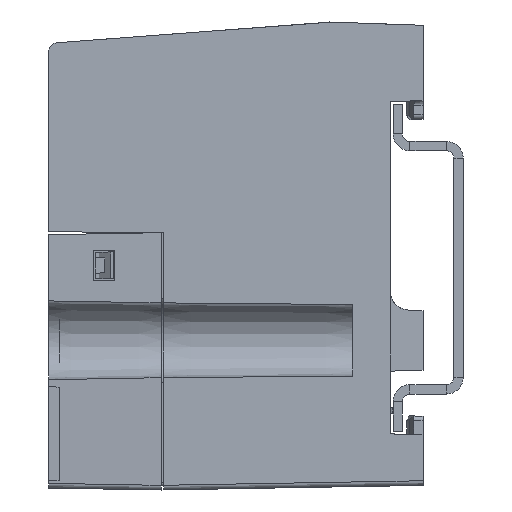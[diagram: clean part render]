
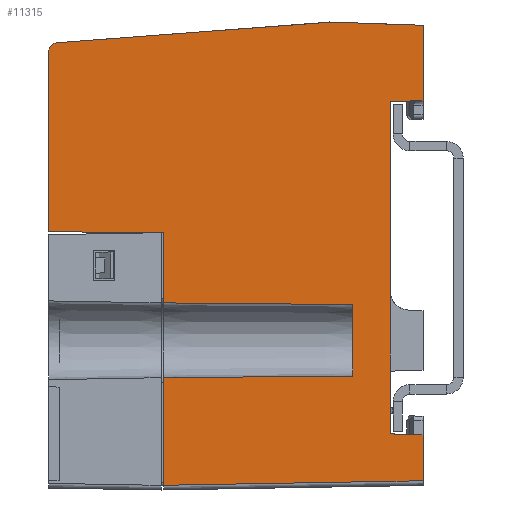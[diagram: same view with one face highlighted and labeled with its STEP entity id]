
A CAD part, left-side view. The second image highlights one B-rep face of the part: STEP entity #11315.
In plain terms, the highlighted planar face has unit normal (-1, -0.018, 0).
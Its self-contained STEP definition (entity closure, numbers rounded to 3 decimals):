
#163=DIRECTION('',(0.,0.,1.));
#164=VECTOR('',#163,4.889);
#165=CARTESIAN_POINT('',(-89.511,0.,
-24.011));
#166=LINE('',#165,#164);
#557=DIRECTION('',(-0.017,0.999,-0.035));
#558=VECTOR('',#557,3.503);
#559=CARTESIAN_POINT('',(-89.511,0.,
16.622));
#560=LINE('',#559,#558);
#564=DIRECTION('',(0.,0.,-1.));
#565=VECTOR('',#564,20.269);
#566=CARTESIAN_POINT('',(-89.572,3.5,16.5));
#567=LINE('',#566,#565);
#571=DIRECTION('',(0.,0.,-1.));
#572=VECTOR('',#571,6.7);
#573=CARTESIAN_POINT('',(-89.572,3.5,-12.3));
#574=LINE('',#573,#572);
#578=DIRECTION('',(-0.017,1.,-0.017));
#579=VECTOR('',#578,27.708);
#580=CARTESIAN_POINT('',(-89.511,0.,
-24.011));
#581=LINE('',#580,#579);
#585=DIRECTION('',(0.,0.,1.));
#586=VECTOR('',#585,11.497);
#587=CARTESIAN_POINT('',(-89.995,27.7,-24.495));
#588=LINE('',#587,#586);
#592=DIRECTION('',(-0.017,1.,0.009));
#593=VECTOR('',#592,20.204);
#594=CARTESIAN_POINT('',(-89.642,7.5,-5.179));
#595=LINE('',#594,#593);
#599=DIRECTION('',(0.,0.,1.));
#600=VECTOR('',#599,7.5);
#601=CARTESIAN_POINT('',(-89.995,27.7,-5.003));
#602=LINE('',#601,#600);
#606=DIRECTION('',(0.,0.,1.));
#607=VECTOR('',#606,19.202);
#608=CARTESIAN_POINT('',(-90.209,40.,2.605));
#609=LINE('',#608,#607);
#629=CARTESIAN_POINT('',(-90.193,39.075,22.804));
#630=CARTESIAN_POINT('',(-90.199,39.383,22.78));
#631=CARTESIAN_POINT('',(-90.206,39.775,22.525));
#632=CARTESIAN_POINT('',(-90.209,40.,22.116));
#633=CARTESIAN_POINT('',(-90.209,40.,21.806));
#1042=DIRECTION('',(0.017,-1.,-0.009));
#1043=VECTOR('',#1042,12.302);
#1044=CARTESIAN_POINT('',(-90.209,40.,2.605));
#1045=LINE('',#1044,#1043);
#1237=DIRECTION('',(0.,0.,-1.));
#1238=VECTOR('',#1237,7.642);
#1239=CARTESIAN_POINT('',(-89.642,7.5,-5.179));
#1240=LINE('',#1239,#1238);
#1313=DIRECTION('',(-0.017,1.,-0.009));
#1314=VECTOR('',#1313,20.204);
#1315=CARTESIAN_POINT('',(-89.642,7.5,-12.821));
#1316=LINE('',#1315,#1314);
#1438=DIRECTION('',(0.,0.,1.));
#1439=VECTOR('',#1438,8.531);
#1440=CARTESIAN_POINT('',(-89.572,3.5,-12.3));
#1441=LINE('',#1440,#1439);
#1568=CARTESIAN_POINT('',(-89.511,0.,-24.011));
#3164=DIRECTION('',(0.,0.,1.));
#3165=VECTOR('',#3164,8.046);
#3166=CARTESIAN_POINT('',(-89.511,0.,
16.622));
#3167=LINE('',#3166,#3165);
#3437=DIRECTION('',(-0.017,0.999,0.035));
#3438=VECTOR('',#3437,9.81);
#3439=CARTESIAN_POINT('',(-89.511,0.,
24.668));
#3440=LINE('',#3439,#3438);
#3486=DIRECTION('',(-0.017,0.997,-0.075));
#3487=VECTOR('',#3486,29.36);
#3488=CARTESIAN_POINT('',(-89.682,9.803,25.011));
#3489=LINE('',#3488,#3487);
#8198=DIRECTION('',(-0.017,0.999,0.035));
#8199=VECTOR('',#8198,3.503);
#8200=CARTESIAN_POINT('',(-89.511,0.,
-19.122));
#8201=LINE('',#8200,#8199);
#9530=VERTEX_POINT('',#1568);
#9531=CARTESIAN_POINT('',(-89.511,0.,
-19.122));
#9532=VERTEX_POINT('',#9531);
#9584=CARTESIAN_POINT('',(-89.572,3.5,16.5));
#9586=VERTEX_POINT('',#9584);
#9660=CARTESIAN_POINT('',(-89.572,3.5,-19.));
#9661=VERTEX_POINT('',#9660);
#9662=CARTESIAN_POINT('',(-89.572,3.5,-12.3));
#9663=VERTEX_POINT('',#9662);
#9671=CARTESIAN_POINT('',(-89.572,3.5,
-3.769));
#9672=VERTEX_POINT('',#9671);
#9705=CARTESIAN_POINT('',(-89.511,0.,
16.622));
#9706=VERTEX_POINT('',#9705);
#9719=VERTEX_POINT('',#629);
#9720=VERTEX_POINT('',#633);
#9721=CARTESIAN_POINT('',(-89.682,9.803,25.011));
#9722=VERTEX_POINT('',#9721);
#9723=CARTESIAN_POINT('',(-89.511,0.,
24.668));
#9724=VERTEX_POINT('',#9723);
#9725=CARTESIAN_POINT('',(-89.995,27.7,-24.495));
#9726=VERTEX_POINT('',#9725);
#9727=CARTESIAN_POINT('',(-89.995,27.7,-12.997));
#9728=VERTEX_POINT('',#9727);
#9729=CARTESIAN_POINT('',(-89.642,7.5,-12.821));
#9730=VERTEX_POINT('',#9729);
#9731=CARTESIAN_POINT('',(-89.642,7.5,-5.179));
#9732=VERTEX_POINT('',#9731);
#9733=CARTESIAN_POINT('',(-89.995,27.7,-5.003));
#9734=VERTEX_POINT('',#9733);
#9735=CARTESIAN_POINT('',(-89.995,27.7,2.497));
#9736=VERTEX_POINT('',#9735);
#9737=CARTESIAN_POINT('',(-90.209,40.,2.605));
#9738=VERTEX_POINT('',#9737);
#11276=CARTESIAN_POINT('',(-90.,28.,-28.293));
#11277=DIRECTION('',(-1.,-0.017,0.));
#11278=DIRECTION('',(0.,0.,1.));
#11279=AXIS2_PLACEMENT_3D('',#11276,#11277,#11278);
#11280=PLANE('',#11279);
#11282=ORIENTED_EDGE('',*,*,#11281,.F.);
#11284=ORIENTED_EDGE('',*,*,#11283,.F.);
#11286=ORIENTED_EDGE('',*,*,#11285,.F.);
#11288=ORIENTED_EDGE('',*,*,#11287,.F.);
#11289=ORIENTED_EDGE('',*,*,#11248,.T.);
#11290=ORIENTED_EDGE('',*,*,#11190,.T.);
#11292=ORIENTED_EDGE('',*,*,#11291,.F.);
#11293=ORIENTED_EDGE('',*,*,#11178,.T.);
#11295=ORIENTED_EDGE('',*,*,#11294,.F.);
#11296=ORIENTED_EDGE('',*,*,#10984,.F.);
#11298=ORIENTED_EDGE('',*,*,#11297,.T.);
#11300=ORIENTED_EDGE('',*,*,#11299,.T.);
#11302=ORIENTED_EDGE('',*,*,#11301,.F.);
#11304=ORIENTED_EDGE('',*,*,#11303,.F.);
#11306=ORIENTED_EDGE('',*,*,#11305,.T.);
#11308=ORIENTED_EDGE('',*,*,#11307,.T.);
#11310=ORIENTED_EDGE('',*,*,#11309,.F.);
#11312=ORIENTED_EDGE('',*,*,#11311,.T.);
#11313=EDGE_LOOP('',(#11282,#11284,#11286,#11288,#11289,#11290,#11292,#11293,
#11295,#11296,#11298,#11300,#11302,#11304,#11306,#11308,#11310,#11312));
#11314=FACE_OUTER_BOUND('',#11313,.F.);
#634=B_SPLINE_CURVE_WITH_KNOTS('',3,(#629,#630,#631,#632,#633),.UNSPECIFIED.,
.F.,.F.,(4,1,4),(0.,0.5,1.),.UNSPECIFIED.);
#10984=EDGE_CURVE('',#9530,#9532,#166,.T.);
#11178=EDGE_CURVE('',#9663,#9661,#574,.T.);
#11190=EDGE_CURVE('',#9586,#9672,#567,.T.);
#11248=EDGE_CURVE('',#9706,#9586,#560,.T.);
#11281=EDGE_CURVE('',#9719,#9720,#634,.T.);
#11283=EDGE_CURVE('',#9722,#9719,#3489,.T.);
#11285=EDGE_CURVE('',#9724,#9722,#3440,.T.);
#11287=EDGE_CURVE('',#9706,#9724,#3167,.T.);
#11291=EDGE_CURVE('',#9663,#9672,#1441,.T.);
#11294=EDGE_CURVE('',#9532,#9661,#8201,.T.);
#11297=EDGE_CURVE('',#9530,#9726,#581,.T.);
#11299=EDGE_CURVE('',#9726,#9728,#588,.T.);
#11301=EDGE_CURVE('',#9730,#9728,#1316,.T.);
#11303=EDGE_CURVE('',#9732,#9730,#1240,.T.);
#11305=EDGE_CURVE('',#9732,#9734,#595,.T.);
#11307=EDGE_CURVE('',#9734,#9736,#602,.T.);
#11309=EDGE_CURVE('',#9738,#9736,#1045,.T.);
#11311=EDGE_CURVE('',#9738,#9720,#609,.T.);
#11315=ADVANCED_FACE('',(#11314),#11280,.T.);
